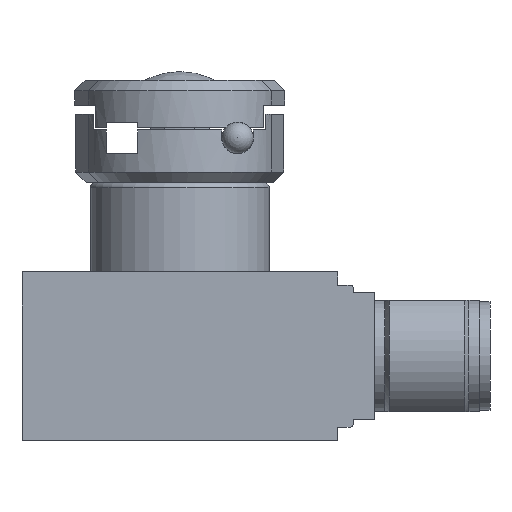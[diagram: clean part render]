
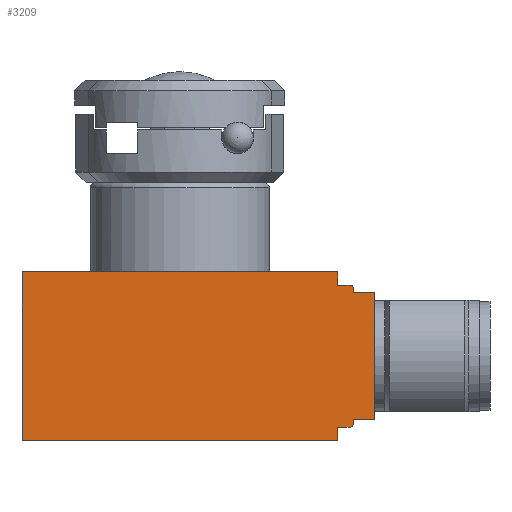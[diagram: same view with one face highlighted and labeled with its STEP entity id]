
A CAD part, front view. The second image highlights one B-rep face of the part: STEP entity #3209.
In plain terms, the highlighted planar face has unit normal (0, -1, 0) as drawn and (0, 0, -1) by its records, which use the part's own axes.
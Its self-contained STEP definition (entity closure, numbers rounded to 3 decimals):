
#44=LINE('',#4679,#374);
#52=LINE('',#4694,#382);
#84=LINE('',#4797,#414);
#100=LINE('',#4842,#430);
#116=LINE('',#4875,#446);
#117=LINE('',#4878,#447);
#118=LINE('',#4882,#448);
#119=LINE('',#4884,#449);
#120=LINE('',#4886,#450);
#121=LINE('',#4888,#451);
#122=LINE('',#4890,#452);
#123=LINE('',#4893,#453);
#374=VECTOR('',#3735,1.25);
#382=VECTOR('',#3743,1.25);
#414=VECTOR('',#3847,30.);
#430=VECTOR('',#3891,16.);
#446=VECTOR('',#3929,30.);
#447=VECTOR('',#3932,1.2);
#448=VECTOR('',#3935,0.45);
#449=VECTOR('',#3936,2.);
#450=VECTOR('',#3937,12.);
#451=VECTOR('',#3938,2.);
#452=VECTOR('',#3939,0.45);
#453=VECTOR('',#3942,1.2);
#734=PLANE('',#3447);
#918=FACE_OUTER_BOUND('',#1120,.T.);
#1120=EDGE_LOOP('',(#2385,#2386,#2387,#2388,#2389,#2390,#2391,#2392,#2393,
#2394,#2395,#2396,#2397,#2398));
#1314=CIRCLE('',#3448,0.3);
#1315=CIRCLE('',#3449,0.3);
#1404=VERTEX_POINT('',#4671);
#1407=VERTEX_POINT('',#4676);
#1408=VERTEX_POINT('',#4678);
#1415=VERTEX_POINT('',#4692);
#1450=VERTEX_POINT('',#4795);
#1465=VERTEX_POINT('',#4840);
#1472=VERTEX_POINT('',#4877);
#1473=VERTEX_POINT('',#4879);
#1474=VERTEX_POINT('',#4881);
#1475=VERTEX_POINT('',#4883);
#1476=VERTEX_POINT('',#4885);
#1477=VERTEX_POINT('',#4887);
#1478=VERTEX_POINT('',#4889);
#1479=VERTEX_POINT('',#4891);
#1717=EDGE_CURVE('',#1408,#1407,#44,.T.);
#1725=EDGE_CURVE('',#1404,#1415,#52,.T.);
#1774=EDGE_CURVE('',#1415,#1450,#84,.T.);
#1796=EDGE_CURVE('',#1465,#1450,#100,.T.);
#1813=EDGE_CURVE('',#1465,#1408,#116,.T.);
#1814=EDGE_CURVE('',#1407,#1472,#117,.T.);
#1815=EDGE_CURVE('',#1472,#1473,#1314,.T.);
#1816=EDGE_CURVE('',#1473,#1474,#118,.T.);
#1817=EDGE_CURVE('',#1474,#1475,#119,.T.);
#1818=EDGE_CURVE('',#1476,#1475,#120,.T.);
#1819=EDGE_CURVE('',#1477,#1476,#121,.T.);
#1820=EDGE_CURVE('',#1478,#1477,#122,.T.);
#1821=EDGE_CURVE('',#1479,#1478,#1315,.T.);
#1822=EDGE_CURVE('',#1404,#1479,#123,.T.);
#2385=ORIENTED_EDGE('',*,*,#1814,.T.);
#2386=ORIENTED_EDGE('',*,*,#1815,.T.);
#2387=ORIENTED_EDGE('',*,*,#1816,.T.);
#2388=ORIENTED_EDGE('',*,*,#1817,.T.);
#2389=ORIENTED_EDGE('',*,*,#1818,.F.);
#2390=ORIENTED_EDGE('',*,*,#1819,.F.);
#2391=ORIENTED_EDGE('',*,*,#1820,.F.);
#2392=ORIENTED_EDGE('',*,*,#1821,.F.);
#2393=ORIENTED_EDGE('',*,*,#1822,.F.);
#2394=ORIENTED_EDGE('',*,*,#1725,.T.);
#2395=ORIENTED_EDGE('',*,*,#1774,.T.);
#2396=ORIENTED_EDGE('',*,*,#1796,.F.);
#2397=ORIENTED_EDGE('',*,*,#1813,.T.);
#2398=ORIENTED_EDGE('',*,*,#1717,.T.);
#3209=ADVANCED_FACE('',(#918),#734,.F.);
#3447=AXIS2_PLACEMENT_3D('',#4876,#3930,#3931);
#3448=AXIS2_PLACEMENT_3D('',#4880,#3933,#3934);
#3449=AXIS2_PLACEMENT_3D('',#4892,#3940,#3941);
#3735=DIRECTION('',(0.,-1.,0.));
#3743=DIRECTION('',(0.,-1.,0.));
#3847=DIRECTION('',(-1.,0.,0.));
#3891=DIRECTION('',(0.,-1.,0.));
#3929=DIRECTION('',(1.,0.,0.));
#3930=DIRECTION('center_axis',(0.,0.,1.));
#3931=DIRECTION('ref_axis',(1.,0.,0.));
#3932=DIRECTION('',(1.,0.,0.));
#3933=DIRECTION('center_axis',(0.,0.,-1.));
#3934=DIRECTION('ref_axis',(0.707,0.707,0.));
#3935=DIRECTION('',(0.,-1.,0.));
#3936=DIRECTION('',(1.,0.,0.));
#3937=DIRECTION('',(0.,1.,0.));
#3938=DIRECTION('',(1.,0.,0.));
#3939=DIRECTION('',(0.,1.,0.));
#3940=DIRECTION('center_axis',(0.,0.,1.));
#3941=DIRECTION('ref_axis',(0.707,-0.707,0.));
#3942=DIRECTION('',(1.,0.,0.));
#4671=CARTESIAN_POINT('',(15.,-14.75,-43.));
#4676=CARTESIAN_POINT('',(15.,-1.25,-43.));
#4678=CARTESIAN_POINT('',(15.,0.,-43.));
#4679=CARTESIAN_POINT('',(15.,0.,-43.));
#4692=CARTESIAN_POINT('',(15.,-16.,-43.));
#4694=CARTESIAN_POINT('',(15.,-14.75,-43.));
#4795=CARTESIAN_POINT('',(-15.,-16.,-43.));
#4797=CARTESIAN_POINT('',(15.,-16.,-43.));
#4840=CARTESIAN_POINT('',(-15.,0.,-43.));
#4842=CARTESIAN_POINT('',(-15.,0.,-43.));
#4875=CARTESIAN_POINT('',(-15.,0.,-43.));
#4876=CARTESIAN_POINT('Origin',(1.75,-16.,-43.));
#4877=CARTESIAN_POINT('',(16.2,-1.25,-43.));
#4878=CARTESIAN_POINT('',(15.,-1.25,-43.));
#4879=CARTESIAN_POINT('',(16.5,-1.55,-43.));
#4880=CARTESIAN_POINT('Origin',(16.2,-1.55,-43.));
#4881=CARTESIAN_POINT('',(16.5,-2.,-43.));
#4882=CARTESIAN_POINT('',(16.5,-1.55,-43.));
#4883=CARTESIAN_POINT('',(18.5,-2.,-43.));
#4884=CARTESIAN_POINT('',(16.5,-2.,-43.));
#4885=CARTESIAN_POINT('',(18.5,-14.,-43.));
#4886=CARTESIAN_POINT('',(18.5,-14.,-43.));
#4887=CARTESIAN_POINT('',(16.5,-14.,-43.));
#4888=CARTESIAN_POINT('',(16.5,-14.,-43.));
#4889=CARTESIAN_POINT('',(16.5,-14.45,-43.));
#4890=CARTESIAN_POINT('',(16.5,-14.45,-43.));
#4891=CARTESIAN_POINT('',(16.2,-14.75,-43.));
#4892=CARTESIAN_POINT('Origin',(16.2,-14.45,-43.));
#4893=CARTESIAN_POINT('',(15.,-14.75,-43.));
